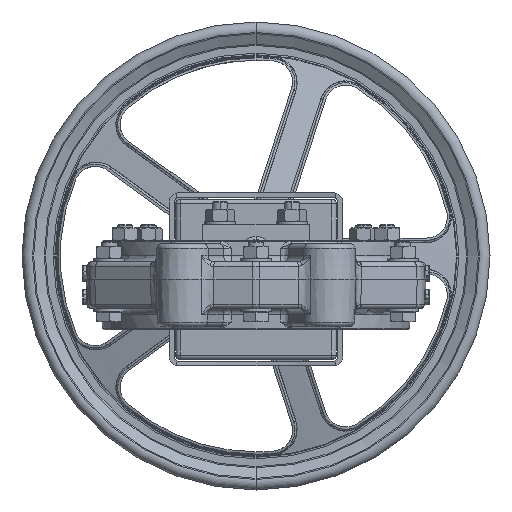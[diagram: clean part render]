
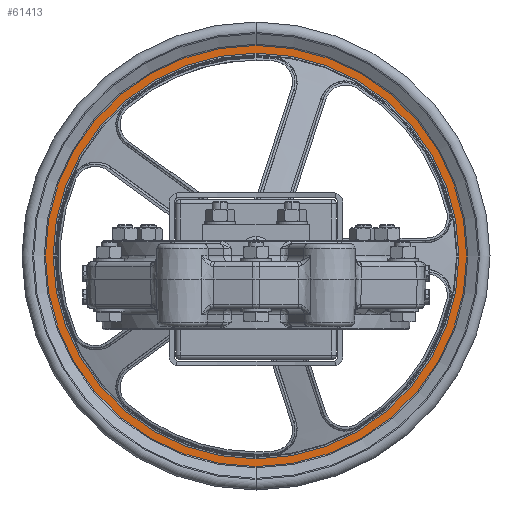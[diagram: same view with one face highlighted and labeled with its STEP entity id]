
A CAD part, front view. The second image highlights one B-rep face of the part: STEP entity #61413.
In plain terms, the highlighted planar face has unit normal (0, -1, 0).
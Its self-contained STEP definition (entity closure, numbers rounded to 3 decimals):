
#15 = FACE_OUTER_BOUND ( 'NONE', #56831, .T. ) ;
#2808 = CARTESIAN_POINT ( 'NONE',  ( 0., 524., 14.75 ) ) ;
#4285 = ORIENTED_EDGE ( 'NONE', *, *, #106477, .T. ) ;
#7175 = CARTESIAN_POINT ( 'NONE',  ( 0., 524., 14.75 ) ) ;
#10172 = AXIS2_PLACEMENT_3D ( 'NONE', #107481, #48522, #117328 ) ;
#12656 = DIRECTION ( 'NONE',  ( 0., 0., 1. ) ) ;
#15221 = CIRCLE ( 'NONE', #10172, 130. ) ;
#17092 = DIRECTION ( 'NONE',  ( 0., 0., 1. ) ) ;
#26274 = FACE_BOUND ( 'NONE', #73883, .T. ) ;
#27648 = CIRCLE ( 'NONE', #127308, 135. ) ;
#34823 = AXIS2_PLACEMENT_3D ( 'NONE', #115097, #56202, #125014 ) ;
#40119 = EDGE_CURVE ( 'NONE', #65574, #51517, #55883, .T. ) ;
#48522 = DIRECTION ( 'NONE',  ( 0., 1., 0. ) ) ;
#50525 = CIRCLE ( 'NONE', #106693, 130. ) ;
#51517 = VERTEX_POINT ( 'NONE', #53764 ) ;
#53143 = CARTESIAN_POINT ( 'NONE',  ( -130., 524., 14.75 ) ) ;
#53764 = CARTESIAN_POINT ( 'NONE',  ( 0., 524., -120.25 ) ) ;
#54812 = CARTESIAN_POINT ( 'NONE',  ( 0., 524., 149.75 ) ) ;
#55883 = CIRCLE ( 'NONE', #34823, 135. ) ;
#56202 = DIRECTION ( 'NONE',  ( 0., 1., 0. ) ) ;
#56831 = EDGE_LOOP ( 'NONE', ( #63039, #90839 ) ) ;
#61413 = ADVANCED_FACE ( 'NONE', ( #26274, #15 ), #82355, .T. ) ;
#62999 = DIRECTION ( 'NONE',  ( 0., 0., -1. ) ) ;
#63039 = ORIENTED_EDGE ( 'NONE', *, *, #40119, .F. ) ;
#65574 = VERTEX_POINT ( 'NONE', #54812 ) ;
#71731 = DIRECTION ( 'NONE',  ( 0., 1., 0. ) ) ;
#73883 = EDGE_LOOP ( 'NONE', ( #4285, #84512 ) ) ;
#76116 = DIRECTION ( 'NONE',  ( 0., 1., 0. ) ) ;
#79107 = EDGE_CURVE ( 'NONE', #51517, #65574, #27648, .T. ) ;
#82355 = PLANE ( 'NONE',  #106312 ) ;
#84512 = ORIENTED_EDGE ( 'NONE', *, *, #94790, .T. ) ;
#90839 = ORIENTED_EDGE ( 'NONE', *, *, #79107, .F. ) ;
#94790 = EDGE_CURVE ( 'NONE', #116191, #127497, #15221, .T. ) ;
#98612 = CARTESIAN_POINT ( 'NONE',  ( 0., 524., 144.75 ) ) ;
#106312 = AXIS2_PLACEMENT_3D ( 'NONE', #53143, #121935, #62999 ) ;
#106477 = EDGE_CURVE ( 'NONE', #127497, #116191, #50525, .T. ) ;
#106693 = AXIS2_PLACEMENT_3D ( 'NONE', #2808, #71731, #12656 ) ;
#107481 = CARTESIAN_POINT ( 'NONE',  ( 0., 524., 14.75 ) ) ;
#112553 = CARTESIAN_POINT ( 'NONE',  ( 0., 524., -115.25 ) ) ;
#115097 = CARTESIAN_POINT ( 'NONE',  ( 0., 524., 14.75 ) ) ;
#116191 = VERTEX_POINT ( 'NONE', #112553 ) ;
#117328 = DIRECTION ( 'NONE',  ( 0., 0., 1. ) ) ;
#121935 = DIRECTION ( 'NONE',  ( 0., -1., 0. ) ) ;
#125014 = DIRECTION ( 'NONE',  ( 0., 0., 1. ) ) ;
#127308 = AXIS2_PLACEMENT_3D ( 'NONE', #7175, #76116, #17092 ) ;
#127497 = VERTEX_POINT ( 'NONE', #98612 ) ;
